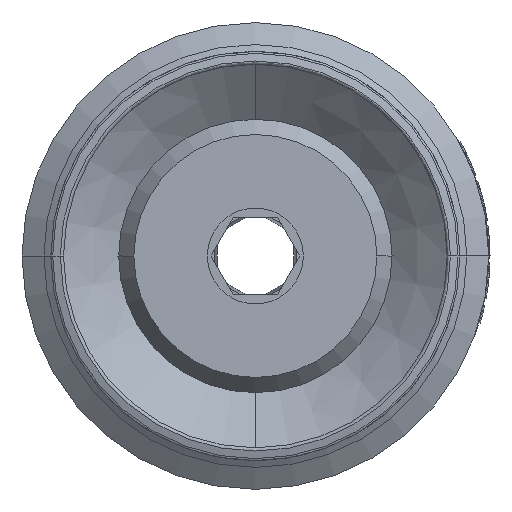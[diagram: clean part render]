
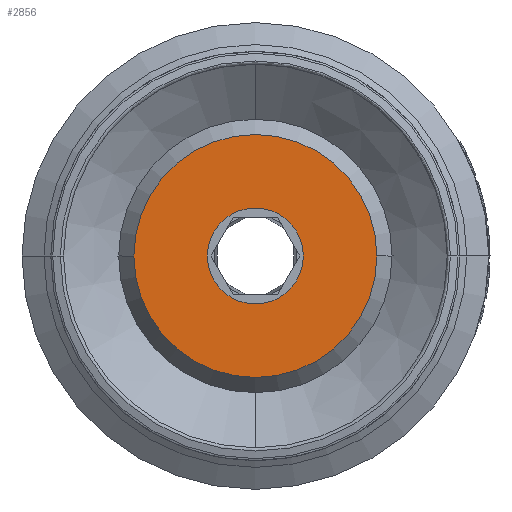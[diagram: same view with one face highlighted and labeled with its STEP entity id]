
A CAD part, front view. The second image highlights one B-rep face of the part: STEP entity #2856.
In plain terms, the highlighted planar face has unit normal (0, -1, 0).
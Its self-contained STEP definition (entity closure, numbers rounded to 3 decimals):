
#294 = AXIS2_PLACEMENT_3D ( 'NONE', #12962, #14124, #13673 ) ;
#1870 = CARTESIAN_POINT ( 'NONE',  ( 0., -13., 0. ) ) ;
#1933 = EDGE_CURVE ( 'NONE', #10066, #10275, #10487, .T. ) ;
#2856 = ADVANCED_FACE ( 'NONE', ( #7364, #14079 ), #14112, .T. ) ;
#3088 = CIRCLE ( 'NONE', #8899, 3.75 ) ;
#3152 = DIRECTION ( 'NONE',  ( -1., 0., 0. ) ) ;
#3885 = DIRECTION ( 'NONE',  ( 0., -1., 0. ) ) ;
#4902 = CIRCLE ( 'NONE', #13105, 9.5 ) ;
#5062 = VERTEX_POINT ( 'NONE', #13816 ) ;
#5394 = CARTESIAN_POINT ( 'NONE',  ( -9.5, -13., 0. ) ) ;
#6785 = CIRCLE ( 'NONE', #12272, 3.75 ) ;
#7317 = DIRECTION ( 'NONE',  ( 0., -1., 0. ) ) ;
#7364 = FACE_OUTER_BOUND ( 'NONE', #13183, .T. ) ;
#7509 = AXIS2_PLACEMENT_3D ( 'NONE', #14866, #7317, #13705 ) ;
#7576 = DIRECTION ( 'NONE',  ( 0., 1., 0. ) ) ;
#7694 = VERTEX_POINT ( 'NONE', #15592 ) ;
#8455 = ORIENTED_EDGE ( 'NONE', *, *, #15272, .T. ) ;
#8899 = AXIS2_PLACEMENT_3D ( 'NONE', #15119, #7576, #16376 ) ;
#9568 = ORIENTED_EDGE ( 'NONE', *, *, #15374, .T. ) ;
#10066 = VERTEX_POINT ( 'NONE', #5394 ) ;
#10275 = VERTEX_POINT ( 'NONE', #15657 ) ;
#10487 = CIRCLE ( 'NONE', #7509, 9.5 ) ;
#10797 = DIRECTION ( 'NONE',  ( 0., 1., 0. ) ) ;
#10833 = ORIENTED_EDGE ( 'NONE', *, *, #1933, .T. ) ;
#11503 = CARTESIAN_POINT ( 'NONE',  ( 0., -13., 0. ) ) ;
#11998 = EDGE_LOOP ( 'NONE', ( #8455, #15283 ) ) ;
#12272 = AXIS2_PLACEMENT_3D ( 'NONE', #1870, #10797, #3152 ) ;
#12754 = DIRECTION ( 'NONE',  ( -1., 0., 0. ) ) ;
#12962 = CARTESIAN_POINT ( 'NONE',  ( -3.75, -13., 0. ) ) ;
#13105 = AXIS2_PLACEMENT_3D ( 'NONE', #11503, #3885, #12754 ) ;
#13183 = EDGE_LOOP ( 'NONE', ( #10833, #9568 ) ) ;
#13673 = DIRECTION ( 'NONE',  ( 1., 0., 0. ) ) ;
#13705 = DIRECTION ( 'NONE',  ( -1., 0., 0. ) ) ;
#13816 = CARTESIAN_POINT ( 'NONE',  ( -3.75, -13., 0. ) ) ;
#14079 = FACE_BOUND ( 'NONE', #11998, .T. ) ;
#14094 = EDGE_CURVE ( 'NONE', #7694, #5062, #6785, .T. ) ;
#14112 = PLANE ( 'NONE',  #294 ) ;
#14124 = DIRECTION ( 'NONE',  ( 0., -1., 0. ) ) ;
#14866 = CARTESIAN_POINT ( 'NONE',  ( 0., -13., 0. ) ) ;
#15119 = CARTESIAN_POINT ( 'NONE',  ( 0., -13., 0. ) ) ;
#15272 = EDGE_CURVE ( 'NONE', #5062, #7694, #3088, .T. ) ;
#15283 = ORIENTED_EDGE ( 'NONE', *, *, #14094, .T. ) ;
#15374 = EDGE_CURVE ( 'NONE', #10275, #10066, #4902, .T. ) ;
#15592 = CARTESIAN_POINT ( 'NONE',  ( 3.75, -13., 0. ) ) ;
#15657 = CARTESIAN_POINT ( 'NONE',  ( 9.5, -13., 0. ) ) ;
#16376 = DIRECTION ( 'NONE',  ( -1., 0., 0. ) ) ;
